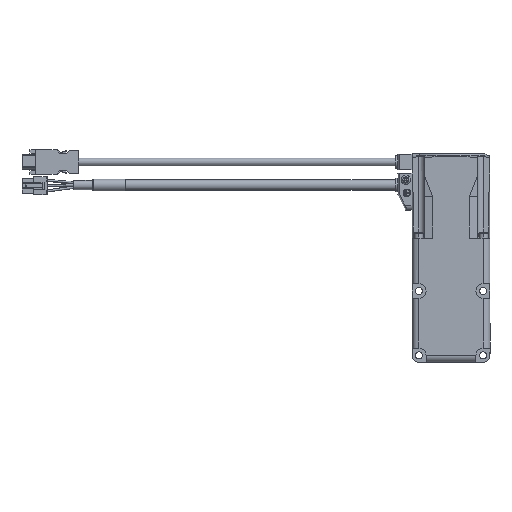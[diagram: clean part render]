
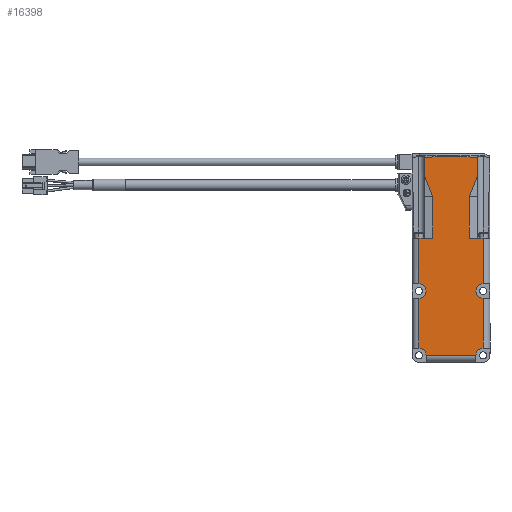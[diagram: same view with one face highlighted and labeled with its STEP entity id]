
A CAD part, left-side view. The second image highlights one B-rep face of the part: STEP entity #16398.
In plain terms, the highlighted planar face has unit normal (-1, 0, 0).
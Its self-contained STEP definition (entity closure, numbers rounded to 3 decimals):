
#127 = CIRCLE ( 'NONE', #893, 146.969 ) ;
#284 = VECTOR ( 'NONE', #21173, 1000. ) ;
#290 = DIRECTION ( 'NONE',  ( 0., 0., 1. ) ) ;
#347 = LINE ( 'NONE', #7489, #13751 ) ;
#412 = DIRECTION ( 'NONE',  ( -1., 0., 0. ) ) ;
#624 = LINE ( 'NONE', #19470, #14314 ) ;
#751 = EDGE_CURVE ( 'NONE', #11004, #8046, #22057, .T. ) ;
#893 = AXIS2_PLACEMENT_3D ( 'NONE', #22189, #18560, #24155 ) ;
#991 = VECTOR ( 'NONE', #6521, 1000. ) ;
#1097 = EDGE_CURVE ( 'NONE', #3449, #17124, #17232, .T. ) ;
#1452 = VECTOR ( 'NONE', #12173, 1000. ) ;
#1600 = ORIENTED_EDGE ( 'NONE', *, *, #751, .F. ) ;
#2030 = DIRECTION ( 'NONE',  ( 0., 0., 1. ) ) ;
#2190 = EDGE_LOOP ( 'NONE', ( #10786, #20817, #10323, #1600, #24673, #10988, #19946, #13870, #5659, #12338, #22887, #10910, #7886, #21004, #2999, #16698, #21146, #10608 ) ) ;
#2269 = VERTEX_POINT ( 'NONE', #16405 ) ;
#2616 = DIRECTION ( 'NONE',  ( 0., 0., 1. ) ) ;
#2784 = LINE ( 'NONE', #7083, #19779 ) ;
#2999 = ORIENTED_EDGE ( 'NONE', *, *, #17431, .T. ) ;
#3215 = CARTESIAN_POINT ( 'NONE',  ( -30., 14., 38.7 ) ) ;
#3375 = VERTEX_POINT ( 'NONE', #20333 ) ;
#3449 = VERTEX_POINT ( 'NONE', #11188 ) ;
#3956 = VECTOR ( 'NONE', #4384, 1000. ) ;
#4115 = CARTESIAN_POINT ( 'NONE',  ( -30., 24.75, -83.25 ) ) ;
#4384 = DIRECTION ( 'NONE',  ( 0., 0., 1. ) ) ;
#4394 = CARTESIAN_POINT ( 'NONE',  ( -30., -20.2, 54.7 ) ) ;
#4760 = CARTESIAN_POINT ( 'NONE',  ( -30., -14., 38.7 ) ) ;
#5039 = CARTESIAN_POINT ( 'NONE',  ( -30., -24.7, -88.5 ) ) ;
#5108 = AXIS2_PLACEMENT_3D ( 'NONE', #4115, #11877, #290 ) ;
#5273 = CARTESIAN_POINT ( 'NONE',  ( -30., -30., -83.2 ) ) ;
#5287 = DIRECTION ( 'NONE',  ( 0., 0., 1. ) ) ;
#5588 = FACE_OUTER_BOUND ( 'NONE', #2190, .T. ) ;
#5659 = ORIENTED_EDGE ( 'NONE', *, *, #22228, .F. ) ;
#5680 = LINE ( 'NONE', #7531, #16000 ) ;
#5894 = CARTESIAN_POINT ( 'NONE',  ( -30., -24.7, -77.65 ) ) ;
#6152 = EDGE_CURVE ( 'NONE', #24748, #22811, #127, .T. ) ;
#6385 = VERTEX_POINT ( 'NONE', #20612 ) ;
#6391 = VECTOR ( 'NONE', #5287, 1000. ) ;
#6503 = CARTESIAN_POINT ( 'NONE',  ( -30., 14., -22.627 ) ) ;
#6521 = DIRECTION ( 'NONE',  ( 0., 0., 1. ) ) ;
#6638 = CARTESIAN_POINT ( 'NONE',  ( -30., 14., 7. ) ) ;
#6929 = VECTOR ( 'NONE', #22149, 1000. ) ;
#7072 = VERTEX_POINT ( 'NONE', #6638 ) ;
#7083 = CARTESIAN_POINT ( 'NONE',  ( -30., -14., 7. ) ) ;
#7290 = PLANE ( 'NONE',  #12982 ) ;
#7489 = CARTESIAN_POINT ( 'NONE',  ( -30., 14., 7. ) ) ;
#7531 = CARTESIAN_POINT ( 'NONE',  ( -30., 20.2, 54.7 ) ) ;
#7686 = DIRECTION ( 'NONE',  ( 0., 0., 1. ) ) ;
#7755 = VECTOR ( 'NONE', #9454, 1000. ) ;
#7886 = ORIENTED_EDGE ( 'NONE', *, *, #1097, .T. ) ;
#8046 = VERTEX_POINT ( 'NONE', #4760 ) ;
#8373 = EDGE_CURVE ( 'NONE', #17851, #8046, #13994, .T. ) ;
#8420 = DIRECTION ( 'NONE',  ( 0., 0., 1. ) ) ;
#8463 = CARTESIAN_POINT ( 'NONE',  ( -30., -20.2, 54.7 ) ) ;
#9176 = CARTESIAN_POINT ( 'NONE',  ( -30., -20.2, 68.778 ) ) ;
#9285 = CARTESIAN_POINT ( 'NONE',  ( -30., -24.7, -39.35 ) ) ;
#9454 = DIRECTION ( 'NONE',  ( 0., -1., 0. ) ) ;
#9752 = VERTEX_POINT ( 'NONE', #19986 ) ;
#10323 = ORIENTED_EDGE ( 'NONE', *, *, #8373, .T. ) ;
#10608 = ORIENTED_EDGE ( 'NONE', *, *, #18647, .F. ) ;
#10786 = ORIENTED_EDGE ( 'NONE', *, *, #11016, .T. ) ;
#10910 = ORIENTED_EDGE ( 'NONE', *, *, #17638, .F. ) ;
#10988 = ORIENTED_EDGE ( 'NONE', *, *, #6152, .T. ) ;
#11004 = VERTEX_POINT ( 'NONE', #4394 ) ;
#11016 = EDGE_CURVE ( 'NONE', #3375, #6385, #24954, .T. ) ;
#11116 = DIRECTION ( 'NONE',  ( 0., -0.361, -0.932 ) ) ;
#11188 = CARTESIAN_POINT ( 'NONE',  ( -30., 24.7, -39.35 ) ) ;
#11255 = CARTESIAN_POINT ( 'NONE',  ( -30., -19.15, -83.2 ) ) ;
#11404 = EDGE_CURVE ( 'NONE', #6385, #17851, #2784, .T. ) ;
#11440 = CARTESIAN_POINT ( 'NONE',  ( -30., -24.75, -83.25 ) ) ;
#11558 = LINE ( 'NONE', #24728, #284 ) ;
#11877 = DIRECTION ( 'NONE',  ( -1., 0., 0. ) ) ;
#12036 = VERTEX_POINT ( 'NONE', #9285 ) ;
#12168 = VERTEX_POINT ( 'NONE', #3215 ) ;
#12173 = DIRECTION ( 'NONE',  ( 0., 0., -1. ) ) ;
#12310 = VECTOR ( 'NONE', #2030, 1000. ) ;
#12338 = ORIENTED_EDGE ( 'NONE', *, *, #24363, .F. ) ;
#12343 = CARTESIAN_POINT ( 'NONE',  ( -30., -24.75, -33.75 ) ) ;
#12669 = AXIS2_PLACEMENT_3D ( 'NONE', #12343, #16385, #2616 ) ;
#12758 = EDGE_CURVE ( 'NONE', #16601, #22811, #11558, .T. ) ;
#12982 = AXIS2_PLACEMENT_3D ( 'NONE', #19248, #13171, #18996 ) ;
#13127 = DIRECTION ( 'NONE',  ( 0., 1., 0. ) ) ;
#13171 = DIRECTION ( 'NONE',  ( -1., 0., 0. ) ) ;
#13207 = AXIS2_PLACEMENT_3D ( 'NONE', #11440, #24952, #7686 ) ;
#13732 = EDGE_CURVE ( 'NONE', #9752, #17124, #16642, .T. ) ;
#13751 = VECTOR ( 'NONE', #13954, 1000. ) ;
#13809 = VERTEX_POINT ( 'NONE', #5894 ) ;
#13851 = CARTESIAN_POINT ( 'NONE',  ( -30., -14., -22.627 ) ) ;
#13870 = ORIENTED_EDGE ( 'NONE', *, *, #22405, .T. ) ;
#13954 = DIRECTION ( 'NONE',  ( 0., -1., 0. ) ) ;
#13994 = LINE ( 'NONE', #13851, #3956 ) ;
#14143 = VERTEX_POINT ( 'NONE', #22675 ) ;
#14314 = VECTOR ( 'NONE', #15662, 1000. ) ;
#15624 = CARTESIAN_POINT ( 'NONE',  ( -30., -20.2, 38.7 ) ) ;
#15662 = DIRECTION ( 'NONE',  ( 0., 0., -1. ) ) ;
#15887 = EDGE_CURVE ( 'NONE', #11004, #24748, #25024, .T. ) ;
#16000 = VECTOR ( 'NONE', #11116, 1000. ) ;
#16314 = VECTOR ( 'NONE', #22005, 1000. ) ;
#16385 = DIRECTION ( 'NONE',  ( -1., 0., 0. ) ) ;
#16398 = ADVANCED_FACE ( 'NONE', ( #5588 ), #7290, .T. ) ;
#16405 = CARTESIAN_POINT ( 'NONE',  ( -30., 24.7, 7. ) ) ;
#16601 = VERTEX_POINT ( 'NONE', #23695 ) ;
#16642 = CIRCLE ( 'NONE', #5108, 5.6 ) ;
#16698 = ORIENTED_EDGE ( 'NONE', *, *, #20059, .F. ) ;
#17124 = VERTEX_POINT ( 'NONE', #19706 ) ;
#17232 = LINE ( 'NONE', #18420, #1452 ) ;
#17431 = EDGE_CURVE ( 'NONE', #9752, #23157, #21374, .T. ) ;
#17638 = EDGE_CURVE ( 'NONE', #3449, #14143, #24104, .T. ) ;
#17851 = VERTEX_POINT ( 'NONE', #21110 ) ;
#18420 = CARTESIAN_POINT ( 'NONE',  ( -30., 24.7, -88.5 ) ) ;
#18560 = DIRECTION ( 'NONE',  ( -1., 0., 0. ) ) ;
#18647 = EDGE_CURVE ( 'NONE', #3375, #12036, #19514, .T. ) ;
#18836 = CIRCLE ( 'NONE', #13207, 5.6 ) ;
#18996 = DIRECTION ( 'NONE',  ( 0., 0., 1. ) ) ;
#19248 = CARTESIAN_POINT ( 'NONE',  ( -30., -30., -88.5 ) ) ;
#19470 = CARTESIAN_POINT ( 'NONE',  ( -30., 24.7, -88.5 ) ) ;
#19514 = CIRCLE ( 'NONE', #12669, 5.6 ) ;
#19634 = AXIS2_PLACEMENT_3D ( 'NONE', #19839, #412, #8420 ) ;
#19706 = CARTESIAN_POINT ( 'NONE',  ( -30., 24.7, -77.65 ) ) ;
#19779 = VECTOR ( 'NONE', #13127, 1000. ) ;
#19839 = CARTESIAN_POINT ( 'NONE',  ( -30., 24.75, -33.75 ) ) ;
#19946 = ORIENTED_EDGE ( 'NONE', *, *, #12758, .F. ) ;
#19986 = CARTESIAN_POINT ( 'NONE',  ( -30., 19.15, -83.2 ) ) ;
#20059 = EDGE_CURVE ( 'NONE', #13809, #23157, #18836, .T. ) ;
#20333 = CARTESIAN_POINT ( 'NONE',  ( -30., -24.7, -28.15 ) ) ;
#20612 = CARTESIAN_POINT ( 'NONE',  ( -30., -24.7, 7. ) ) ;
#20817 = ORIENTED_EDGE ( 'NONE', *, *, #11404, .T. ) ;
#21004 = ORIENTED_EDGE ( 'NONE', *, *, #13732, .F. ) ;
#21110 = CARTESIAN_POINT ( 'NONE',  ( -30., -14., 7. ) ) ;
#21146 = ORIENTED_EDGE ( 'NONE', *, *, #25163, .T. ) ;
#21173 = DIRECTION ( 'NONE',  ( 0., 0., 1. ) ) ;
#21268 = LINE ( 'NONE', #5039, #6391 ) ;
#21374 = LINE ( 'NONE', #5273, #7755 ) ;
#21845 = CARTESIAN_POINT ( 'NONE',  ( -30., -24.7, -88.5 ) ) ;
#21975 = CARTESIAN_POINT ( 'NONE',  ( -30., 20.2, 68.778 ) ) ;
#22005 = DIRECTION ( 'NONE',  ( 0., 0., 1. ) ) ;
#22057 = LINE ( 'NONE', #8463, #6929 ) ;
#22149 = DIRECTION ( 'NONE',  ( 0., 0.361, -0.932 ) ) ;
#22189 = CARTESIAN_POINT ( 'NONE',  ( -30., 0., -76.797 ) ) ;
#22228 = EDGE_CURVE ( 'NONE', #7072, #12168, #24204, .T. ) ;
#22405 = EDGE_CURVE ( 'NONE', #16601, #12168, #5680, .T. ) ;
#22675 = CARTESIAN_POINT ( 'NONE',  ( -30., 24.7, -28.15 ) ) ;
#22811 = VERTEX_POINT ( 'NONE', #21975 ) ;
#22887 = ORIENTED_EDGE ( 'NONE', *, *, #24867, .T. ) ;
#23157 = VERTEX_POINT ( 'NONE', #11255 ) ;
#23695 = CARTESIAN_POINT ( 'NONE',  ( -30., 20.2, 54.7 ) ) ;
#24104 = CIRCLE ( 'NONE', #19634, 5.6 ) ;
#24155 = DIRECTION ( 'NONE',  ( 0., 0., -1. ) ) ;
#24204 = LINE ( 'NONE', #6503, #16314 ) ;
#24363 = EDGE_CURVE ( 'NONE', #2269, #7072, #347, .T. ) ;
#24673 = ORIENTED_EDGE ( 'NONE', *, *, #15887, .T. ) ;
#24728 = CARTESIAN_POINT ( 'NONE',  ( -30., 20.2, 38.7 ) ) ;
#24748 = VERTEX_POINT ( 'NONE', #9176 ) ;
#24867 = EDGE_CURVE ( 'NONE', #2269, #14143, #624, .T. ) ;
#24952 = DIRECTION ( 'NONE',  ( -1., 0., 0. ) ) ;
#24954 = LINE ( 'NONE', #21845, #991 ) ;
#25024 = LINE ( 'NONE', #15624, #12310 ) ;
#25163 = EDGE_CURVE ( 'NONE', #13809, #12036, #21268, .T. ) ;
